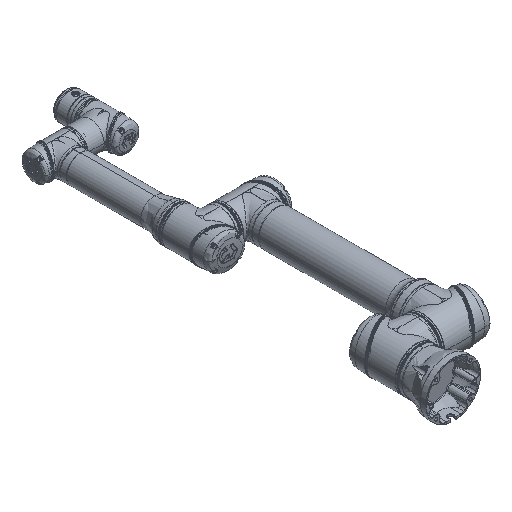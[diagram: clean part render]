
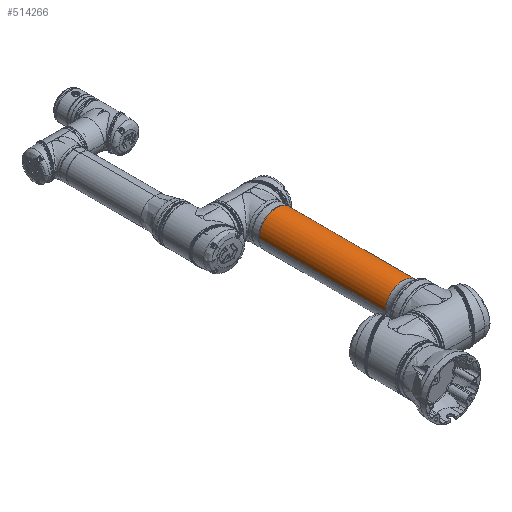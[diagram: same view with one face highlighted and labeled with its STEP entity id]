
A CAD part, isometric view. The second image highlights one B-rep face of the part: STEP entity #514266.
In plain terms, the highlighted cylindrical face has radius 48.5 mm (diameter 97 mm), a partial arc.
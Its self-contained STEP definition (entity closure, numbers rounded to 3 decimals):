
#57418 = EDGE_CURVE ( 'NONE', #393487, #79034, #736204, .T. ) ;
#79034 = VERTEX_POINT ( 'NONE', #709401 ) ;
#81333 = AXIS2_PLACEMENT_3D ( 'NONE', #582362, #281127, #277212 ) ;
#171705 = ORIENTED_EDGE ( 'NONE', *, *, #280895, .T. ) ;
#174399 = CARTESIAN_POINT ( 'NONE',  ( 62.9, 0., -92.5 ) ) ;
#223593 = DIRECTION ( 'NONE',  ( -1., 0., 0. ) ) ;
#227529 = FACE_OUTER_BOUND ( 'NONE', #672808, .T. ) ;
#235404 = CYLINDRICAL_SURFACE ( 'NONE', #484690, 48.5 ) ;
#258790 = VECTOR ( 'NONE', #743357, 1000. ) ;
#263309 = AXIS2_PLACEMENT_3D ( 'NONE', #531700, #415082, #294678 ) ;
#277212 = DIRECTION ( 'NONE',  ( 0., 0., 1. ) ) ;
#280895 = EDGE_CURVE ( 'NONE', #618514, #393487, #737724, .T. ) ;
#281127 = DIRECTION ( 'NONE',  ( 1., 0., 0. ) ) ;
#285897 = VECTOR ( 'NONE', #611843, 1000. ) ;
#294678 = DIRECTION ( 'NONE',  ( 0., 0., 1. ) ) ;
#338905 = CARTESIAN_POINT ( 'NONE',  ( 463.7, 0., -92.5 ) ) ;
#369856 = VERTEX_POINT ( 'NONE', #408519 ) ;
#374191 = EDGE_CURVE ( 'NONE', #79034, #369856, #761057, .T. ) ;
#393487 = VERTEX_POINT ( 'NONE', #338905 ) ;
#408519 = CARTESIAN_POINT ( 'NONE',  ( 116.698, 0., -189.5 ) ) ;
#415082 = DIRECTION ( 'NONE',  ( -1., 0., 0. ) ) ;
#425058 = ORIENTED_EDGE ( 'NONE', *, *, #57418, .T. ) ;
#480294 = DIRECTION ( 'NONE',  ( 0., 0., 1. ) ) ;
#484253 = CARTESIAN_POINT ( 'NONE',  ( 62.9, 0., -141. ) ) ;
#484690 = AXIS2_PLACEMENT_3D ( 'NONE', #484253, #223593, #480294 ) ;
#494564 = LINE ( 'NONE', #570644, #258790 ) ;
#514266 = ADVANCED_FACE ( 'NONE', ( #227529 ), #235404, .T. ) ;
#531700 = CARTESIAN_POINT ( 'NONE',  ( 463.7, 0., -141. ) ) ;
#543467 = EDGE_CURVE ( 'NONE', #618514, #369856, #494564, .T. ) ;
#545874 = ORIENTED_EDGE ( 'NONE', *, *, #374191, .T. ) ;
#570644 = CARTESIAN_POINT ( 'NONE',  ( 62.9, 0., -189.5 ) ) ;
#582362 = CARTESIAN_POINT ( 'NONE',  ( 116.698, 0., -141. ) ) ;
#611843 = DIRECTION ( 'NONE',  ( -1., 0., 0. ) ) ;
#618514 = VERTEX_POINT ( 'NONE', #790239 ) ;
#672808 = EDGE_LOOP ( 'NONE', ( #748093, #171705, #425058, #545874 ) ) ;
#709401 = CARTESIAN_POINT ( 'NONE',  ( 116.698, 0., -92.5 ) ) ;
#736204 = LINE ( 'NONE', #174399, #285897 ) ;
#737724 = CIRCLE ( 'NONE', #263309, 48.5 ) ;
#743357 = DIRECTION ( 'NONE',  ( -1., 0., 0. ) ) ;
#748093 = ORIENTED_EDGE ( 'NONE', *, *, #543467, .F. ) ;
#761057 = CIRCLE ( 'NONE', #81333, 48.5 ) ;
#790239 = CARTESIAN_POINT ( 'NONE',  ( 463.7, 0., -189.5 ) ) ;
